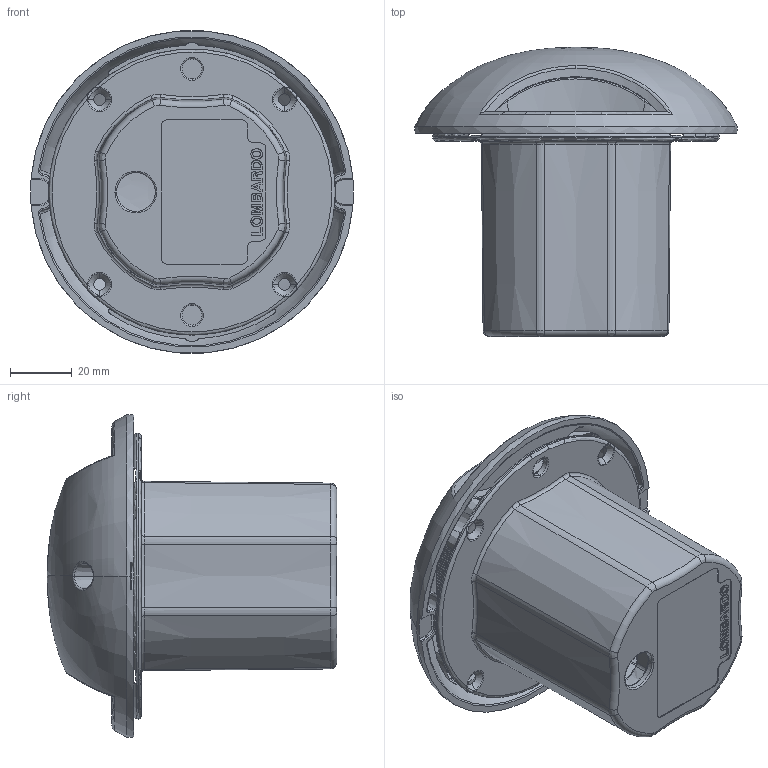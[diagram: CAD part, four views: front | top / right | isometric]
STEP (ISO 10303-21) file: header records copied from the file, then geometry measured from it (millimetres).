
FILE_DESCRIPTION((''),'2;1');
FILE_NAME('FINTO-INC-90X2-LED-90_SW0001','2025-07-30T16:19:15',('Piccioli'),(''),'CREO PARAMETRIC BY PTC INC, 2025010','CREO PARAMETRIC BY PTC INC, 2025010','');
FILE_SCHEMA(('CONFIG_CONTROL_DESIGN'));
Length unit declared in the file: millimetre
Products named in the file (1): FINTO-INC-90X2-LED-90_SW0001
Bounding box: 104.9 x 94 x 104.77 mm (x, y, z)
Surface area: 69112 mm2 (no closed solid volume)
Topology: 0 solids, 25 shells, 605 faces, 2412 edges, 1789 vertices
Faces by surface type: cone 209, cylinder 145, bspline 121, torus 82, plane 38, revolution 8, sphere 2
Entity records: 49933 total; most frequent: CARTESIAN_POINT 33392, ORIENTED_EDGE 3600, DIRECTION 2526, EDGE_CURVE 2402, VERTEX_POINT 1789, B_SPLINE_CURVE_WITH_KNOTS 1503, AXIS2_PLACEMENT_3D 1135, CIRCLE 659
